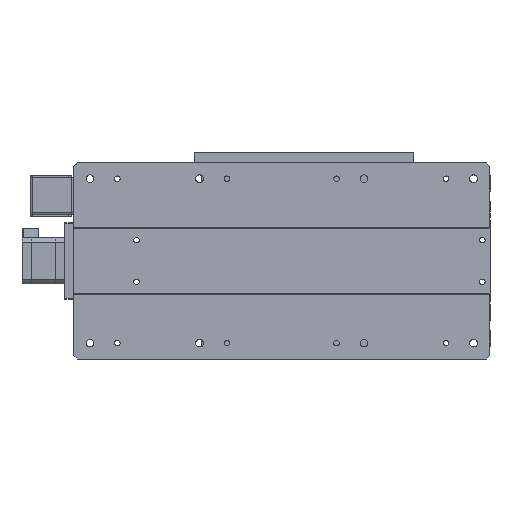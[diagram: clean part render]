
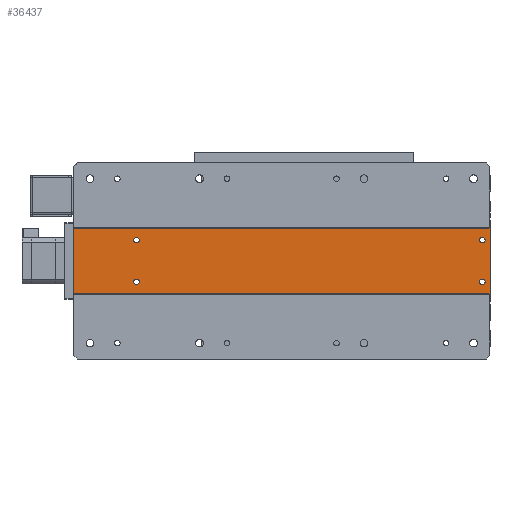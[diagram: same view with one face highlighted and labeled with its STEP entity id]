
A CAD part, front view. The second image highlights one B-rep face of the part: STEP entity #36437.
In plain terms, the highlighted planar face has unit normal (0, -1, 0).
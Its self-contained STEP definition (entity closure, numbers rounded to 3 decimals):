
#645 = VERTEX_POINT ( 'NONE', #23551 ) ;
#902 = AXIS2_PLACEMENT_3D ( 'NONE', #17850, #17606, #39555 ) ;
#1129 = AXIS2_PLACEMENT_3D ( 'NONE', #10556, #29115, #36690 ) ;
#1659 = CIRCLE ( 'NONE', #902, 2.5 ) ;
#2403 = ORIENTED_EDGE ( 'NONE', *, *, #35996, .F. ) ;
#2409 = CIRCLE ( 'NONE', #30484, 2.5 ) ;
#2519 = EDGE_LOOP ( 'NONE', ( #36348, #19533, #41622, #13851 ) ) ;
#3709 = CARTESIAN_POINT ( 'NONE',  ( -190., -7.5, 30. ) ) ;
#3754 = CARTESIAN_POINT ( 'NONE',  ( 190., -7.5, 30. ) ) ;
#4003 = VECTOR ( 'NONE', #44157, 1000. ) ;
#4367 = DIRECTION ( 'NONE',  ( 0., -1., 0. ) ) ;
#6838 = ORIENTED_EDGE ( 'NONE', *, *, #28074, .F. ) ;
#6862 = FACE_BOUND ( 'NONE', #22092, .T. ) ;
#7688 = CARTESIAN_POINT ( 'NONE',  ( 190., -7.5, 30. ) ) ;
#8399 = CARTESIAN_POINT ( 'NONE',  ( -132.5, -7.5, 19. ) ) ;
#10556 = CARTESIAN_POINT ( 'NONE',  ( 190., -7.5, -30. ) ) ;
#11047 = VERTEX_POINT ( 'NONE', #36457 ) ;
#11400 = EDGE_LOOP ( 'NONE', ( #6838 ) ) ;
#12371 = ORIENTED_EDGE ( 'NONE', *, *, #47883, .F. ) ;
#13363 = VERTEX_POINT ( 'NONE', #13842 ) ;
#13842 = CARTESIAN_POINT ( 'NONE',  ( -132.5, -7.5, -16.5 ) ) ;
#13851 = ORIENTED_EDGE ( 'NONE', *, *, #45303, .T. ) ;
#14968 = CARTESIAN_POINT ( 'NONE',  ( -190., -7.5, -30. ) ) ;
#15883 = DIRECTION ( 'NONE',  ( 0., 0., 1. ) ) ;
#17234 = VERTEX_POINT ( 'NONE', #3754 ) ;
#17606 = DIRECTION ( 'NONE',  ( 0., -1., 0. ) ) ;
#17850 = CARTESIAN_POINT ( 'NONE',  ( 183., -7.5, -19. ) ) ;
#18235 = VECTOR ( 'NONE', #48331, 1000. ) ;
#18263 = DIRECTION ( 'NONE',  ( -1., 0., 0. ) ) ;
#18727 = LINE ( 'NONE', #7688, #41495 ) ;
#19533 = ORIENTED_EDGE ( 'NONE', *, *, #19979, .F. ) ;
#19740 = EDGE_CURVE ( 'NONE', #13363, #13363, #2409, .T. ) ;
#19979 = EDGE_CURVE ( 'NONE', #36259, #645, #27583, .T. ) ;
#20273 = CARTESIAN_POINT ( 'NONE',  ( 183., -7.5, 19. ) ) ;
#21251 = CARTESIAN_POINT ( 'NONE',  ( 190., -7.5, -30. ) ) ;
#21433 = ORIENTED_EDGE ( 'NONE', *, *, #19740, .F. ) ;
#21449 = VERTEX_POINT ( 'NONE', #3709 ) ;
#22092 = EDGE_LOOP ( 'NONE', ( #2403 ) ) ;
#22525 = VERTEX_POINT ( 'NONE', #44001 ) ;
#22800 = LINE ( 'NONE', #14968, #41307 ) ;
#23551 = CARTESIAN_POINT ( 'NONE',  ( -190., -7.5, -30. ) ) ;
#24497 = FACE_BOUND ( 'NONE', #37125, .T. ) ;
#24836 = CIRCLE ( 'NONE', #29502, 2.5 ) ;
#27583 = LINE ( 'NONE', #21251, #4003 ) ;
#27590 = DIRECTION ( 'NONE',  ( 0., -1., 0. ) ) ;
#28074 = EDGE_CURVE ( 'NONE', #29402, #29402, #1659, .T. ) ;
#28343 = CARTESIAN_POINT ( 'NONE',  ( 190., -7.5, -30. ) ) ;
#29115 = DIRECTION ( 'NONE',  ( 0., 1., 0. ) ) ;
#29164 = CIRCLE ( 'NONE', #34645, 2.5 ) ;
#29402 = VERTEX_POINT ( 'NONE', #30370 ) ;
#29502 = AXIS2_PLACEMENT_3D ( 'NONE', #20273, #27590, #42485 ) ;
#29914 = EDGE_CURVE ( 'NONE', #17234, #36259, #41461, .T. ) ;
#30370 = CARTESIAN_POINT ( 'NONE',  ( 183., -7.5, -16.5 ) ) ;
#30408 = DIRECTION ( 'NONE',  ( 0., 0., 1. ) ) ;
#30484 = AXIS2_PLACEMENT_3D ( 'NONE', #34683, #4367, #15883 ) ;
#34645 = AXIS2_PLACEMENT_3D ( 'NONE', #8399, #42120, #30408 ) ;
#34683 = CARTESIAN_POINT ( 'NONE',  ( -132.5, -7.5, -19. ) ) ;
#35996 = EDGE_CURVE ( 'NONE', #22525, #22525, #29164, .T. ) ;
#36210 = FACE_BOUND ( 'NONE', #11400, .T. ) ;
#36259 = VERTEX_POINT ( 'NONE', #28343 ) ;
#36348 = ORIENTED_EDGE ( 'NONE', *, *, #42816, .T. ) ;
#36437 = ADVANCED_FACE ( 'NONE', ( #6862, #36210, #46973, #44006, #24497 ), #47217, .F. ) ;
#36457 = CARTESIAN_POINT ( 'NONE',  ( 183., -7.5, 21.5 ) ) ;
#36690 = DIRECTION ( 'NONE',  ( 0., 0., 1. ) ) ;
#37125 = EDGE_LOOP ( 'NONE', ( #12371 ) ) ;
#38438 = EDGE_LOOP ( 'NONE', ( #21433 ) ) ;
#39555 = DIRECTION ( 'NONE',  ( 0., 0., 1. ) ) ;
#41307 = VECTOR ( 'NONE', #44753, 1000. ) ;
#41461 = LINE ( 'NONE', #41947, #18235 ) ;
#41495 = VECTOR ( 'NONE', #18263, 1000. ) ;
#41622 = ORIENTED_EDGE ( 'NONE', *, *, #29914, .F. ) ;
#41947 = CARTESIAN_POINT ( 'NONE',  ( 190., -7.5, -30. ) ) ;
#42120 = DIRECTION ( 'NONE',  ( 0., -1., 0. ) ) ;
#42485 = DIRECTION ( 'NONE',  ( 0., 0., 1. ) ) ;
#42816 = EDGE_CURVE ( 'NONE', #21449, #645, #22800, .T. ) ;
#44001 = CARTESIAN_POINT ( 'NONE',  ( -132.5, -7.5, 21.5 ) ) ;
#44006 = FACE_BOUND ( 'NONE', #38438, .T. ) ;
#44157 = DIRECTION ( 'NONE',  ( -1., 0., 0. ) ) ;
#44753 = DIRECTION ( 'NONE',  ( 0., 0., -1. ) ) ;
#45303 = EDGE_CURVE ( 'NONE', #17234, #21449, #18727, .T. ) ;
#46973 = FACE_OUTER_BOUND ( 'NONE', #2519, .T. ) ;
#47217 = PLANE ( 'NONE',  #1129 ) ;
#47883 = EDGE_CURVE ( 'NONE', #11047, #11047, #24836, .T. ) ;
#48331 = DIRECTION ( 'NONE',  ( 0., 0., -1. ) ) ;
